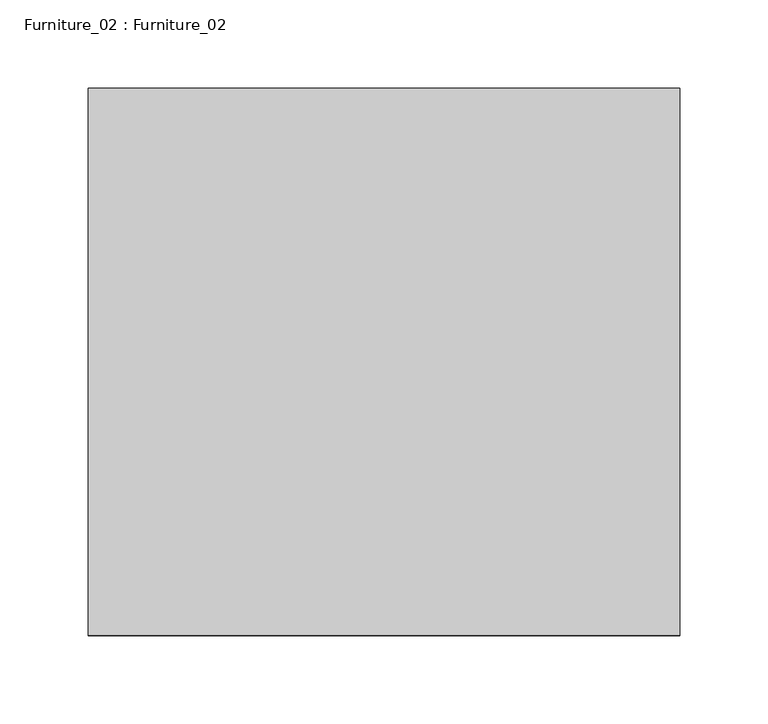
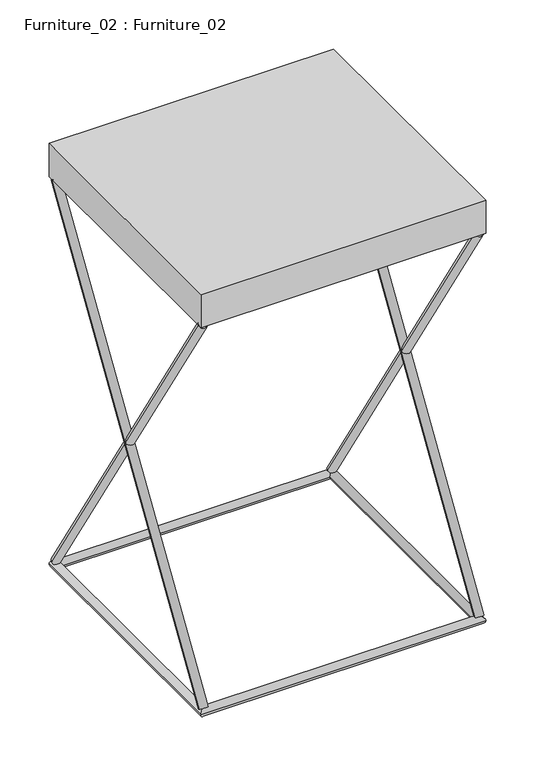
"""IFC4 building model written with IfcOpenShell, lengths in millimetres: furniture geometry, Furniture_02 : Furniture_02."""

from ifc_helpers import new_model, si_unit, point, frame, origin, origin_2d, place, context, project, spatial, polyline, circle_curve, ellipse_curve, trimmed, segment, composite_curve, outline, extrude, source, transform, mapped, element, save
from ifc_brep_helpers import cylinder_surface, advanced_brep


def furniture_02_furniture_02_fe2f7198(model_context):
    return source(origin(), model_context, "Body", "SolidModel", [
        extrude(outline(composite_curve([segment(trimmed(circle_curve(origin_2d(), 5.0), [point((-5.0, 0.0))], [point((5.0, 0.0))], False, "CARTESIAN"), True, "CONTINUOUS"), segment(trimmed(circle_curve(origin_2d(), 5.0), [point((5.0, 0.0))], [point((-5.0, 0.0))], False, "CARTESIAN"), True, "CONTINUOUS")], self_intersect=False)), frame((-162.5345915, -150.5055291, 4.3822383), z_axis=(0.0, 0.5329039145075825, 0.8461757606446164), x_axis=(1.0, 0.0, 0.0)), (0.0, 0.0, 1.0), 562.9532676),
        extrude(outline(composite_curve([segment(trimmed(circle_curve(origin_2d(), 5.0), [point((-5.0, 0.0))], [point((5.0, 0.0))], False, "CARTESIAN"), True, "CONTINUOUS"), segment(trimmed(circle_curve(origin_2d(), 5.0), [point((5.0, 0.0))], [point((-5.0, 0.0))], False, "CARTESIAN"), True, "CONTINUOUS")], self_intersect=False)), frame((-162.5345915, 150.0, 5.0), z_axis=(0.0, -0.5329039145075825, 0.8461757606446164), x_axis=(1.0, 0.0, 0.0)), (0.0, 0.0, 1.0), 562.9532676),
        extrude(outline(composite_curve([segment(trimmed(circle_curve(origin_2d(), 5.0), [point((-5.0, 0.0))], [point((5.0, 0.0))], False, "CARTESIAN"), True, "CONTINUOUS"), segment(trimmed(circle_curve(origin_2d(), 5.0), [point((5.0, 0.0))], [point((-5.0, 0.0))], False, "CARTESIAN"), True, "CONTINUOUS")], self_intersect=False)), frame((162.4654085, -150.5055291, 4.3822383), z_axis=(0.0, 0.5329039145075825, 0.8461757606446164), x_axis=(1.0, 0.0, 0.0)), (0.0, 0.0, 1.0), 562.9532676),
        extrude(outline(composite_curve([segment(trimmed(circle_curve(origin_2d(), 5.0), [point((-5.0, 0.0))], [point((5.0, 0.0))], False, "CARTESIAN"), True, "CONTINUOUS"), segment(trimmed(circle_curve(origin_2d(), 5.0), [point((5.0, 0.0))], [point((-5.0, 0.0))], False, "CARTESIAN"), True, "CONTINUOUS")], self_intersect=False)), frame((162.4654085, 150.0, 5.0), z_axis=(0.0, -0.5329039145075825, 0.8461757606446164), x_axis=(1.0, 0.0, 0.0)), (0.0, 0.0, 1.0), 562.9532676),
        advanced_brep(
        [(157.5345915, 145.0, 0.0), (167.5345915, 155.0, 0.0), (167.5345915, -155.0, 0.0), (157.5345915, -145.0, 0.0), (-167.4654085, -155.0, 0.0), (-157.4654085, -145.0, 0.0), (-167.4654085, 155.0, 0.0), (-157.4654085, 145.0, 0.0)],
        [
            (0, 1, ellipse_curve(frame((162.5345915, 150.0, 0.0), z_axis=(0.7071067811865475, -0.7071067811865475, 0.0), x_axis=(0.7071067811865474, 0.7071067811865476, 0.0)), 7.0710678, 5.0)),
            (1, 2),
            (2, 3, ellipse_curve(frame((162.5345915, -150.0, 0.0), z_axis=(0.7071067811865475, 0.7071067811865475, 0.0), x_axis=(-0.7071067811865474, 0.7071067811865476, 0.0)), 7.0710678, 5.0)),
            (3, 0),
            (1, 0, ellipse_curve(frame((162.5345915, 150.0, 0.0), z_axis=(0.7071067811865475, -0.7071067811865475, 0.0), x_axis=(0.7071067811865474, 0.7071067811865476, 0.0)), 7.0710678, 5.0)),
            (3, 2, ellipse_curve(frame((162.5345915, -150.0, 0.0), z_axis=(0.7071067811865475, 0.7071067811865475, 0.0), x_axis=(-0.7071067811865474, 0.7071067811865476, 0.0)), 7.0710678, 5.0)),
            (2, 4),
            (4, 5, ellipse_curve(frame((-162.4654085, -150.0, 0.0), z_axis=(0.7071067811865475, -0.7071067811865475, 0.0), x_axis=(0.7071067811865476, 0.7071067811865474, 0.0)), 7.0710678, 5.0)),
            (5, 3),
            (5, 4, ellipse_curve(frame((-162.4654085, -150.0, 0.0), z_axis=(0.7071067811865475, -0.7071067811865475, 0.0), x_axis=(0.7071067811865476, 0.7071067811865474, 0.0)), 7.0710678, 5.0)),
            (4, 6),
            (6, 7, ellipse_curve(frame((-162.4654085, 150.0, 0.0), z_axis=(-0.7071067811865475, -0.7071067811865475, 0.0), x_axis=(0.7071067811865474, -0.7071067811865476, 0.0)), 7.0710678, 5.0)),
            (7, 5),
            (7, 6, ellipse_curve(frame((-162.4654085, 150.0, 0.0), z_axis=(-0.7071067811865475, -0.7071067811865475, 0.0), x_axis=(0.7071067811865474, -0.7071067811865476, 0.0)), 7.0710678, 5.0)),
            (6, 1),
            (0, 7),
        ],
        [
            cylinder_surface(frame((162.5345915, 150.0, 0.0), z_axis=(0.0, 1.0, 0.0), x_axis=(-1.0, 0.0, 0.0)), 5.0),
            cylinder_surface(frame((162.5345915, -150.0, 0.0), z_axis=(1.0, 0.0, 0.0), x_axis=(0.0, 1.0, 0.0)), 5.0),
            cylinder_surface(frame((-162.4654085, -150.0, 0.0), z_axis=(0.0, -1.0, 0.0), x_axis=(1.0, 0.0, 0.0)), 5.0),
            cylinder_surface(frame((-162.4654085, 150.0, 0.0), z_axis=(-1.0, 0.0, 0.0), x_axis=(0.0, -1.0, 0.0)), 5.0),
        ],
        [
            (0, [[1, 2, 3, 4]]),
            (0, [[5, -4, 6, -2]]),
            (1, [[-3, 7, 8, 9]]),
            (1, [[-6, -9, 10, -7]]),
            (2, [[-8, 11, 12, 13]]),
            (2, [[-10, -13, 14, -11]]),
            (3, [[-12, 15, -1, 16]]),
            (3, [[-14, -16, -5, -15]]),
        ],
    ),
        extrude(outline(polyline([(-167.4654085, 155.0), (167.5345915, 155.0), (167.5345915, -155.0), (-167.4654085, -155.0), (-167.4654085, 155.0)])), frame((0.0, 0.0, 481.3574094), z_axis=(0.0, 0.0, 1.0), x_axis=(1.0, 0.0, 0.0)), (0.0, 0.0, 1.0), 41.2323982),
    ])


if __name__ == "__main__":
    model = new_model("IFC4")
    model_context = context("Model", 3, world=origin())
    ifc_project = project(units=[si_unit("LENGTHUNIT", "METRE", prefix="MILLI")], contexts=[model_context])
    site = spatial("IfcSite", under=ifc_project)
    building = spatial("IfcBuilding", under=site)
    placement = place(None, origin())
    furniture_02_furniture_02_shape = furniture_02_furniture_02_fe2f7198(model_context)
    element("IfcFurniture", 1, ObjectType="Furniture_02 : Furniture_02", at=placement, inside=building, context=model_context, shape_type="MappedRepresentation", body=[
        mapped(furniture_02_furniture_02_shape, transform((0.0, 0.0, 0.0), x_axis=(1.0, 0.0, 0.0), y_axis=(0.0, 1.0, 0.0), z_axis=(0.0, 0.0, 1.0))),
    ])
    save(model, "model.ifc")
